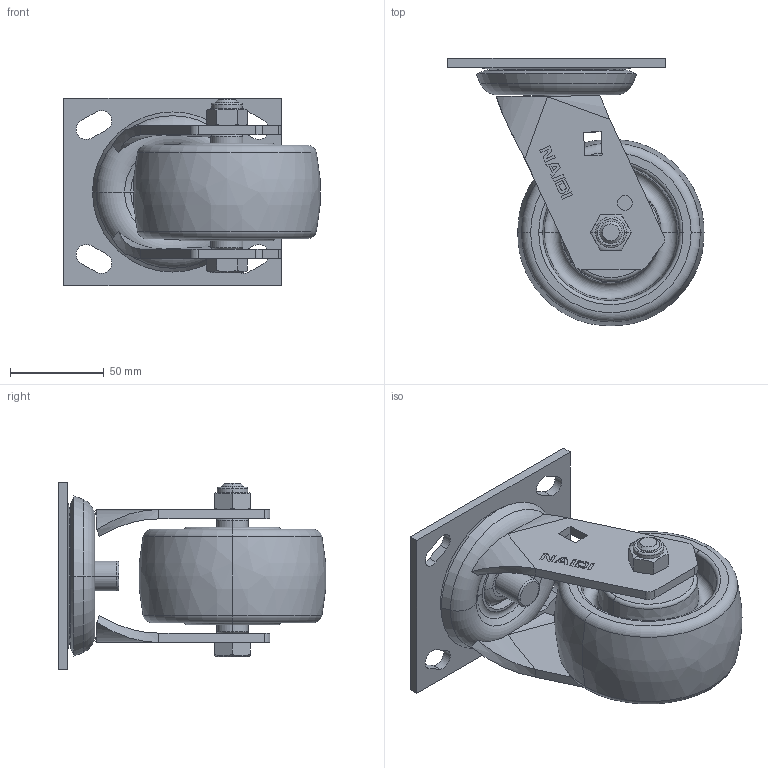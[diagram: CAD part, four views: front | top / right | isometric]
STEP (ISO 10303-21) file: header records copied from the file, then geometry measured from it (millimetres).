
FILE_DESCRIPTION((''),'2;1');
FILE_NAME('C74114_ASM','2024-05-28T',('Lenovo'),(''),'PRO/ENGINEER BY PARAMETRIC TECHNOLOGY CORPORATION, 2010280','PRO/ENGINEER BY PARAMETRIC TECHNOLOGY CORPORATION, 2010280','');
FILE_SCHEMA(('CONFIG_CONTROL_DESIGN'));
Length unit declared in the file: millimetre
Products named in the file (9): C7410-201; C7410-211; C7414-353; 7310-051; C744-906; 700-54; 700-33; 700-34; C74114_ASM
Assembly tree (8 placements, depth 2):
  C74114_ASM
    C7410-201
    C7410-211
    C7414-353
    7310-051
    C744-906
    700-54
    700-33
    700-34
Bounding box: 136.75 x 142.75 x 100 mm (x, y, z)
Volume: 468577.9 mm3; surface area: 116888.5 mm2
Topology: 9 solids, 9 shells, 284 faces, 648 edges, 402 vertices
Faces by surface type: plane 120, cylinder 64, torus 52, cone 38, bspline 10
Entity records: 8687 total; most frequent: CARTESIAN_POINT 1913, DIRECTION 1466, ORIENTED_EDGE 1296, EDGE_CURVE 648, AXIS2_PLACEMENT_3D 567, VERTEX_POINT 402, EDGE_LOOP 334, VECTOR 332
